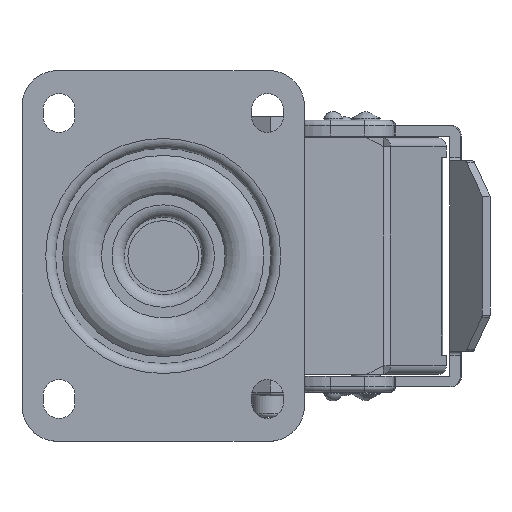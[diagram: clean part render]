
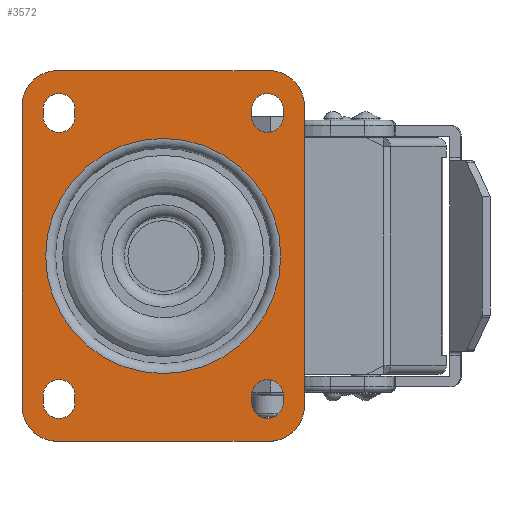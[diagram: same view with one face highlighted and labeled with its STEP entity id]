
A CAD part, top view. The second image highlights one B-rep face of the part: STEP entity #3572.
In plain terms, the highlighted planar face has unit normal (0, 0, 1).
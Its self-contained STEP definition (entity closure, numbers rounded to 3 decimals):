
#443=PLANE('',#12679);
#2113=LINE('',#22795,#2911);
#2114=LINE('',#22799,#2912);
#2115=LINE('',#22800,#2913);
#2116=LINE('',#22805,#2914);
#2117=LINE('',#22811,#2915);
#2118=LINE('',#22815,#2916);
#2119=LINE('',#22819,#2917);
#2120=LINE('',#22823,#2918);
#2121=LINE('',#22827,#2919);
#2122=LINE('',#22831,#2920);
#2123=LINE('',#22835,#2921);
#2124=LINE('',#22839,#2922);
#2911=VECTOR('',#15873,1.);
#2912=VECTOR('',#15876,1.);
#2913=VECTOR('',#15877,1.);
#2914=VECTOR('',#15880,1.);
#2915=VECTOR('',#15885,1.);
#2916=VECTOR('',#15888,1.);
#2917=VECTOR('',#15891,1.);
#2918=VECTOR('',#15894,1.);
#2919=VECTOR('',#15897,1.);
#2920=VECTOR('',#15900,1.);
#2921=VECTOR('',#15903,1.);
#2922=VECTOR('',#15906,1.);
#3572=ADVANCED_FACE('',(#3939,#3940,#3941,#3942,#3943,#3944),#443,.F.);
#3939=FACE_BOUND('',#4733,.T.);
#3940=FACE_BOUND('',#4734,.T.);
#3941=FACE_BOUND('',#4735,.T.);
#3942=FACE_BOUND('',#4736,.T.);
#3943=FACE_BOUND('',#4737,.T.);
#3944=FACE_BOUND('',#4738,.T.);
#4733=EDGE_LOOP('',(#8346,#8347,#8348,#8349));
#4734=EDGE_LOOP('',(#8350,#8351,#8352,#8353));
#4735=EDGE_LOOP('',(#8354,#8355,#8356,#8357));
#4736=EDGE_LOOP('',(#8358,#8359,#8360,#8361));
#4737=EDGE_LOOP('',(#8362,#8363,#8364,#8365,#8366,#8367,#8368,#8369));
#4738=EDGE_LOOP('',(#8370));
#5220=CIRCLE('',#12665,33.3);
#5221=CIRCLE('',#12667,4.5);
#5222=CIRCLE('',#12668,4.5);
#5223=CIRCLE('',#12669,4.5);
#5224=CIRCLE('',#12670,4.5);
#5225=CIRCLE('',#12671,4.5);
#5226=CIRCLE('',#12672,4.5);
#5227=CIRCLE('',#12673,4.5);
#5228=CIRCLE('',#12674,4.5);
#5229=CIRCLE('',#12675,10.);
#5230=CIRCLE('',#12676,10.);
#5231=CIRCLE('',#12677,10.);
#5232=CIRCLE('',#12678,10.);
#8346=ORIENTED_EDGE('',*,*,#11203,.F.);
#8347=ORIENTED_EDGE('',*,*,#11204,.F.);
#8348=ORIENTED_EDGE('',*,*,#11205,.F.);
#8349=ORIENTED_EDGE('',*,*,#11206,.F.);
#8350=ORIENTED_EDGE('',*,*,#11207,.F.);
#8351=ORIENTED_EDGE('',*,*,#11208,.F.);
#8352=ORIENTED_EDGE('',*,*,#11209,.F.);
#8353=ORIENTED_EDGE('',*,*,#11210,.F.);
#8354=ORIENTED_EDGE('',*,*,#11211,.F.);
#8355=ORIENTED_EDGE('',*,*,#11212,.F.);
#8356=ORIENTED_EDGE('',*,*,#11213,.F.);
#8357=ORIENTED_EDGE('',*,*,#11214,.F.);
#8358=ORIENTED_EDGE('',*,*,#11215,.F.);
#8359=ORIENTED_EDGE('',*,*,#11216,.F.);
#8360=ORIENTED_EDGE('',*,*,#11217,.F.);
#8361=ORIENTED_EDGE('',*,*,#11218,.F.);
#8362=ORIENTED_EDGE('',*,*,#11219,.F.);
#8363=ORIENTED_EDGE('',*,*,#11220,.F.);
#8364=ORIENTED_EDGE('',*,*,#11221,.F.);
#8365=ORIENTED_EDGE('',*,*,#11222,.F.);
#8366=ORIENTED_EDGE('',*,*,#11223,.F.);
#8367=ORIENTED_EDGE('',*,*,#11224,.F.);
#8368=ORIENTED_EDGE('',*,*,#11225,.F.);
#8369=ORIENTED_EDGE('',*,*,#11226,.F.);
#8370=ORIENTED_EDGE('',*,*,#11202,.F.);
#9592=VERTEX_POINT('',#22790);
#9593=VERTEX_POINT('',#22793);
#9594=VERTEX_POINT('',#22794);
#9595=VERTEX_POINT('',#22796);
#9596=VERTEX_POINT('',#22798);
#9597=VERTEX_POINT('',#22801);
#9598=VERTEX_POINT('',#22802);
#9599=VERTEX_POINT('',#22804);
#9600=VERTEX_POINT('',#22806);
#9601=VERTEX_POINT('',#22809);
#9602=VERTEX_POINT('',#22810);
#9603=VERTEX_POINT('',#22812);
#9604=VERTEX_POINT('',#22814);
#9605=VERTEX_POINT('',#22817);
#9606=VERTEX_POINT('',#22818);
#9607=VERTEX_POINT('',#22820);
#9608=VERTEX_POINT('',#22822);
#9609=VERTEX_POINT('',#22825);
#9610=VERTEX_POINT('',#22826);
#9611=VERTEX_POINT('',#22828);
#9612=VERTEX_POINT('',#22830);
#9613=VERTEX_POINT('',#22832);
#9614=VERTEX_POINT('',#22834);
#9615=VERTEX_POINT('',#22836);
#9616=VERTEX_POINT('',#22838);
#11202=EDGE_CURVE('',#9592,#9592,#5220,.T.);
#11203=EDGE_CURVE('',#9593,#9594,#5221,.T.);
#11204=EDGE_CURVE('',#9595,#9593,#2113,.T.);
#11205=EDGE_CURVE('',#9596,#9595,#5222,.T.);
#11206=EDGE_CURVE('',#9594,#9596,#2114,.T.);
#11207=EDGE_CURVE('',#9597,#9598,#2115,.T.);
#11208=EDGE_CURVE('',#9599,#9597,#5223,.T.);
#11209=EDGE_CURVE('',#9600,#9599,#2116,.T.);
#11210=EDGE_CURVE('',#9598,#9600,#5224,.T.);
#11211=EDGE_CURVE('',#9601,#9602,#5225,.T.);
#11212=EDGE_CURVE('',#9603,#9601,#2117,.T.);
#11213=EDGE_CURVE('',#9604,#9603,#5226,.T.);
#11214=EDGE_CURVE('',#9602,#9604,#2118,.T.);
#11215=EDGE_CURVE('',#9605,#9606,#5227,.T.);
#11216=EDGE_CURVE('',#9607,#9605,#2119,.T.);
#11217=EDGE_CURVE('',#9608,#9607,#5228,.T.);
#11218=EDGE_CURVE('',#9606,#9608,#2120,.T.);
#11219=EDGE_CURVE('',#9609,#9610,#5229,.T.);
#11220=EDGE_CURVE('',#9611,#9609,#2121,.T.);
#11221=EDGE_CURVE('',#9612,#9611,#5230,.T.);
#11222=EDGE_CURVE('',#9613,#9612,#2122,.T.);
#11223=EDGE_CURVE('',#9614,#9613,#5231,.T.);
#11224=EDGE_CURVE('',#9615,#9614,#2123,.T.);
#11225=EDGE_CURVE('',#9616,#9615,#5232,.T.);
#11226=EDGE_CURVE('',#9610,#9616,#2124,.T.);
#12665=AXIS2_PLACEMENT_3D('',#22789,#15867,#15868);
#12667=AXIS2_PLACEMENT_3D('',#22792,#15871,#15872);
#12668=AXIS2_PLACEMENT_3D('',#22797,#15874,#15875);
#12669=AXIS2_PLACEMENT_3D('',#22803,#15878,#15879);
#12670=AXIS2_PLACEMENT_3D('',#22807,#15881,#15882);
#12671=AXIS2_PLACEMENT_3D('',#22808,#15883,#15884);
#12672=AXIS2_PLACEMENT_3D('',#22813,#15886,#15887);
#12673=AXIS2_PLACEMENT_3D('',#22816,#15889,#15890);
#12674=AXIS2_PLACEMENT_3D('',#22821,#15892,#15893);
#12675=AXIS2_PLACEMENT_3D('',#22824,#15895,#15896);
#12676=AXIS2_PLACEMENT_3D('',#22829,#15898,#15899);
#12677=AXIS2_PLACEMENT_3D('',#22833,#15901,#15902);
#12678=AXIS2_PLACEMENT_3D('',#22837,#15904,#15905);
#12679=AXIS2_PLACEMENT_3D('',#22840,#15907,#15908);
#15867=DIRECTION('',(0.,0.,1.));
#15868=DIRECTION('',(0.,-1.,0.));
#15871=DIRECTION('',(0.,0.,1.));
#15872=DIRECTION('',(0.,-1.,0.));
#15873=DIRECTION('',(0.,-1.,0.));
#15874=DIRECTION('',(0.,0.,1.));
#15875=DIRECTION('',(0.,-1.,0.));
#15876=DIRECTION('',(0.,1.,0.));
#15877=DIRECTION('',(0.,1.,0.));
#15878=DIRECTION('',(0.,0.,1.));
#15879=DIRECTION('',(0.,-1.,0.));
#15880=DIRECTION('',(0.,-1.,0.));
#15881=DIRECTION('',(0.,0.,1.));
#15882=DIRECTION('',(0.,-1.,0.));
#15883=DIRECTION('',(0.,0.,1.));
#15884=DIRECTION('',(0.,-1.,0.));
#15885=DIRECTION('',(0.,1.,0.));
#15886=DIRECTION('',(0.,0.,1.));
#15887=DIRECTION('',(0.,-1.,0.));
#15888=DIRECTION('',(0.,-1.,0.));
#15889=DIRECTION('',(0.,0.,1.));
#15890=DIRECTION('',(0.,-1.,0.));
#15891=DIRECTION('',(0.,-1.,0.));
#15892=DIRECTION('',(0.,0.,1.));
#15893=DIRECTION('',(0.,-1.,0.));
#15894=DIRECTION('',(0.,1.,0.));
#15895=DIRECTION('',(0.,0.,-1.));
#15896=DIRECTION('',(0.,-1.,0.));
#15897=DIRECTION('',(0.,1.,0.));
#15898=DIRECTION('',(0.,0.,-1.));
#15899=DIRECTION('',(0.,-1.,0.));
#15900=DIRECTION('',(-1.,0.,0.));
#15901=DIRECTION('',(0.,0.,-1.));
#15902=DIRECTION('',(0.,-1.,0.));
#15903=DIRECTION('',(0.,-1.,0.));
#15904=DIRECTION('',(0.,0.,-1.));
#15905=DIRECTION('',(0.,-1.,0.));
#15906=DIRECTION('',(1.,0.,0.));
#15907=DIRECTION('',(0.,0.,-1.));
#15908=DIRECTION('',(0.,-1.,0.));
#22789=CARTESIAN_POINT('',(0.,0.,-0.2));
#22790=CARTESIAN_POINT('',(33.3,0.,-0.2));
#22792=CARTESIAN_POINT('',(-29.5,39.5,-0.2));
#22793=CARTESIAN_POINT('',(-34.,39.5,-0.2));
#22794=CARTESIAN_POINT('',(-25.,39.5,-0.2));
#22795=CARTESIAN_POINT('',(-34.,-35.,-0.2));
#22796=CARTESIAN_POINT('',(-34.,41.5,-0.2));
#22797=CARTESIAN_POINT('',(-29.5,41.5,-0.2));
#22798=CARTESIAN_POINT('',(-25.,41.5,-0.2));
#22799=CARTESIAN_POINT('',(-25.,-35.,-0.2));
#22800=CARTESIAN_POINT('',(34.,-35.,-0.2));
#22801=CARTESIAN_POINT('',(34.,39.5,-0.2));
#22802=CARTESIAN_POINT('',(34.,41.5,-0.2));
#22803=CARTESIAN_POINT('',(29.5,39.5,-0.2));
#22804=CARTESIAN_POINT('',(25.,39.5,-0.2));
#22805=CARTESIAN_POINT('',(25.,-35.,-0.2));
#22806=CARTESIAN_POINT('',(25.,41.5,-0.2));
#22807=CARTESIAN_POINT('',(29.5,41.5,-0.2));
#22808=CARTESIAN_POINT('',(-29.5,-39.5,-0.2));
#22809=CARTESIAN_POINT('',(-25.,-39.5,-0.2));
#22810=CARTESIAN_POINT('',(-34.,-39.5,-0.2));
#22811=CARTESIAN_POINT('',(-25.,-35.,-0.2));
#22812=CARTESIAN_POINT('',(-25.,-41.5,-0.2));
#22813=CARTESIAN_POINT('',(-29.5,-41.5,-0.2));
#22814=CARTESIAN_POINT('',(-34.,-41.5,-0.2));
#22815=CARTESIAN_POINT('',(-34.,-35.,-0.2));
#22816=CARTESIAN_POINT('',(29.5,-41.5,-0.2));
#22817=CARTESIAN_POINT('',(25.,-41.5,-0.2));
#22818=CARTESIAN_POINT('',(34.,-41.5,-0.2));
#22819=CARTESIAN_POINT('',(25.,-35.,-0.2));
#22820=CARTESIAN_POINT('',(25.,-39.5,-0.2));
#22821=CARTESIAN_POINT('',(29.5,-39.5,-0.2));
#22822=CARTESIAN_POINT('',(34.,-39.5,-0.2));
#22823=CARTESIAN_POINT('',(34.,-35.,-0.2));
#22824=CARTESIAN_POINT('',(-30.,42.5,-0.2));
#22825=CARTESIAN_POINT('',(-40.,42.5,-0.2));
#22826=CARTESIAN_POINT('',(-30.,52.5,-0.2));
#22827=CARTESIAN_POINT('',(-40.,-35.,-0.2));
#22828=CARTESIAN_POINT('',(-40.,-42.5,-0.2));
#22829=CARTESIAN_POINT('',(-30.,-42.5,-0.2));
#22830=CARTESIAN_POINT('',(-30.,-52.5,-0.2));
#22831=CARTESIAN_POINT('',(0.,-52.5,-0.2));
#22832=CARTESIAN_POINT('',(30.,-52.5,-0.2));
#22833=CARTESIAN_POINT('',(30.,-42.5,-0.2));
#22834=CARTESIAN_POINT('',(40.,-42.5,-0.2));
#22835=CARTESIAN_POINT('',(40.,-35.,-0.2));
#22836=CARTESIAN_POINT('',(40.,42.5,-0.2));
#22837=CARTESIAN_POINT('',(30.,42.5,-0.2));
#22838=CARTESIAN_POINT('',(30.,52.5,-0.2));
#22839=CARTESIAN_POINT('',(0.,52.5,-0.2));
#22840=CARTESIAN_POINT('',(0.,-35.,-0.2));
